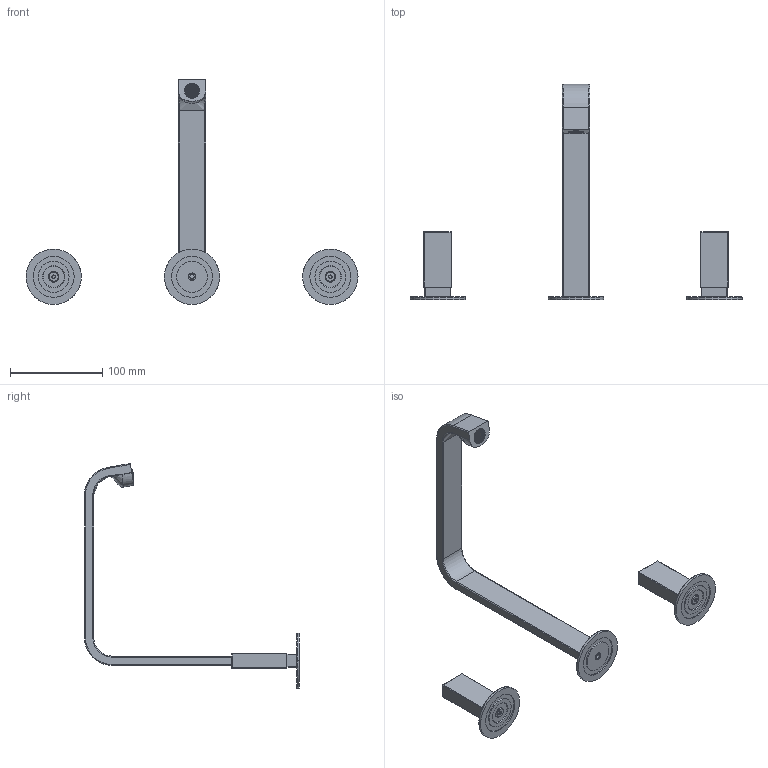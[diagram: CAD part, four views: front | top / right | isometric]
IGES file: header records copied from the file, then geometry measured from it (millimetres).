
Start section:  PTC IGES file: 53068VM.igs
Global section: file name: 53068VM.igs; native system: Creo Parametric by PTC Inc.; preprocessor: 2025443; author: carloff; organization: Unknown; date: 20260917.140154; units: millimetre
Bounding box: 360 x 233 x 243.89 mm (x, y, z)
Surface area: 104126.9 mm2 (no closed solid volume)
Topology: 0 solids, 0 shells, 3153 faces, 19321 edges, 19308 vertices
Faces by surface type: bspline 2305, revolution 845, extrusion 3
